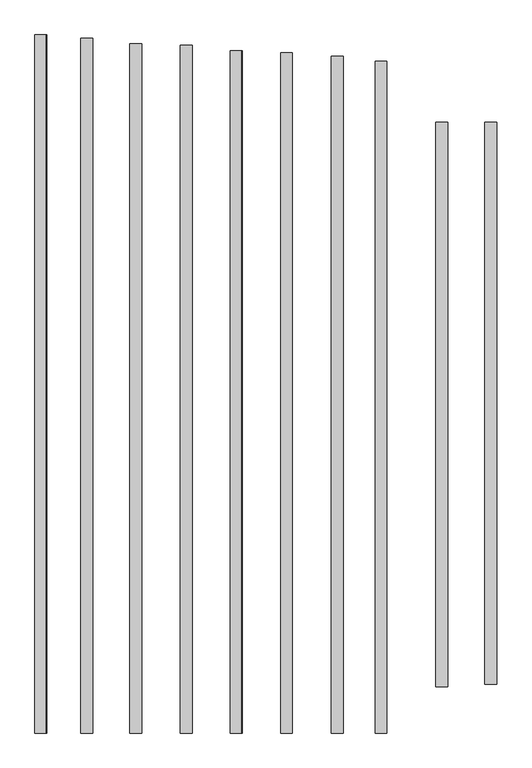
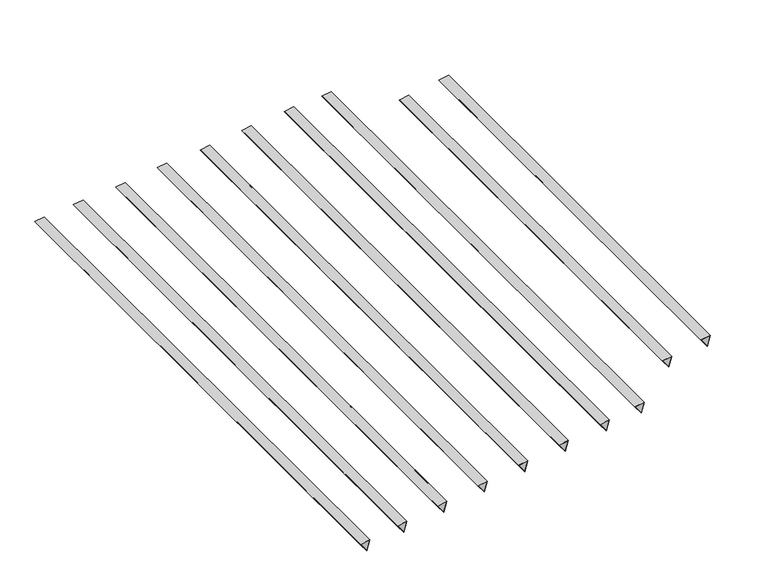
"""IFC4 building model written with IfcOpenShell, lengths in millimetres: beam geometry, Armazón estructural 10 : Armazón estructural 10."""

from ifc_helpers import new_model, si_unit, frame, origin, place, context, project, spatial, polyline, outline, extrude, source, transform, mapped, element, save


def beam_2914460d(model_context):
    return source(origin(), model_context, "Body", "SweptSolid", [
        extrude(outline(polyline([(4071.1441248, -3997.1644583), (4026.8558752, -4243.2102893), (3802.954169, -4075.8991242), (4071.1441248, -3997.1644583)]), holes=[polyline([(3824.9611772, -4079.8603857), (4019.8804377, -4225.5143386), (4058.4358958, -4011.317349), (3824.9611772, -4079.8603857)])]), frame((0.0, -4086.3927727, 0.0), z_axis=(0.0, 1.0, 0.0), x_axis=(0.0, 0.0, 1.0)), (0.0, 0.0, 1.0), 14508.5655695),
        extrude(outline(polyline([(4243.1673074, -3045.3689992), (4198.8790579, -3291.4148302), (3974.9773516, -3124.1036651), (4243.1673074, -3045.3689992)]), holes=[polyline([(3996.9843598, -3128.0649266), (4191.9036203, -3273.7188795), (4230.4590785, -3059.5218899), (3996.9843598, -3128.0649266)])]), frame((0.0, -4086.3927727, 0.0), z_axis=(0.0, 1.0, 0.0), x_axis=(0.0, 0.0, 1.0)), (0.0, 0.0, 1.0), 14436.4503591),
        extrude(outline(polyline([(4427.4064257, -2021.8183423), (4383.1181761, -2267.8641733), (4159.2164699, -2100.5530082), (4427.4064257, -2021.8183423)]), holes=[polyline([(4181.223478, -2104.5142697), (4376.1427386, -2250.1682226), (4414.6981967, -2035.971233), (4181.223478, -2104.5142697)])]), frame((0.0, -4086.3927727, 0.0), z_axis=(0.0, 1.0, 0.0), x_axis=(0.0, 0.0, 1.0)), (0.0, 0.0, 1.0), 14328.2775435),
        extrude(outline(polyline([(4615.1886039, -978.5840189), (4570.9003543, -1224.6298498), (4346.9986481, -1057.3186848), (4615.1886039, -978.5840189)]), holes=[polyline([(4369.0056563, -1061.2799462), (4563.9249168, -1206.9338992), (4602.4803749, -992.7369096), (4369.0056563, -1061.2799462)])]), frame((0.0, -4086.3927727, 0.0), z_axis=(0.0, 1.0, 0.0), x_axis=(0.0, 0.0, 1.0)), (0.0, 0.0, 1.0), 14292.2199383),
        extrude(outline(polyline([(4802.9707821, 64.6503046), (4758.6825325, -181.3955264), (4534.7808263, -14.0843614), (4802.9707821, 64.6503046)]), holes=[polyline([(4556.7878345, -18.0456228), (4751.707095, -163.6995758), (4790.2625531, 50.4974138), (4556.7878345, -18.0456228)])]), frame((0.0, -4086.3927727, 0.0), z_axis=(0.0, 1.0, 0.0), x_axis=(0.0, 0.0, 1.0)), (0.0, 0.0, 1.0), 14176.8356017),
        extrude(outline(polyline([(4990.7529603, 1107.884628), (4946.4647107, 861.838797), (4722.5630045, 1029.1499621), (4990.7529603, 1107.884628)]), holes=[polyline([(4744.5700127, 1025.1887006), (4939.4892732, 879.5347477), (4978.0447314, 1093.7317373), (4744.5700127, 1025.1887006)])]), frame((0.0, -4086.3927727, 0.0), z_axis=(0.0, 1.0, 0.0), x_axis=(0.0, 0.0, 1.0)), (0.0, 0.0, 1.0), 14133.5664754),
        extrude(outline(polyline([(5181.2242855, 2166.0586565), (5136.9360359, 1920.0128255), (4913.0343297, 2087.3239906), (5181.2242855, 2166.0586565)]), holes=[polyline([(4935.0413378, 2083.3627291), (5129.9605984, 1937.7087762), (5168.5160565, 2151.9057658), (4935.0413378, 2083.3627291)])]), frame((0.0, -4086.3927727, 0.0), z_axis=(0.0, 1.0, 0.0), x_axis=(0.0, 0.0, 1.0)), (0.0, 0.0, 1.0), 14068.6627861),
        extrude(outline(polyline([(5344.2050439, 3071.5073146), (5299.9167943, 2825.4614836), (5076.0150881, 2992.7726487), (5344.2050439, 3071.5073146)]), holes=[polyline([(5098.0220963, 2988.8113872), (5292.9413568, 2843.1574343), (5331.4968149, 3057.3544239), (5098.0220963, 2988.8113872)])]), frame((0.0, -4086.3927727, 0.0), z_axis=(0.0, 1.0, 0.0), x_axis=(0.0, 0.0, 1.0)), (0.0, 0.0, 1.0), 13959.6677218),
        extrude(outline(polyline([(5570.9608818, 4331.2619693), (5526.6726322, 4085.2161383), (5302.770926, 4252.5273033), (5570.9608818, 4331.2619693)]), holes=[polyline([(5324.7779341, 4248.5660419), (5519.6971947, 4102.9120889), (5558.2526528, 4317.1090785), (5324.7779341, 4248.5660419)])]), frame((0.0, -3119.8833494, 0.0), z_axis=(0.0, 1.0, 0.0), x_axis=(0.0, 0.0, 1.0)), (0.0, 0.0, 1.0), 11723.4905768),
        extrude(outline(polyline([(5755.2, 5354.8126262), (5710.9117504, 5108.7667952), (5487.0100442, 5276.0779603), (5755.2, 5354.8126262)]), holes=[polyline([(5509.0170524, 5272.1166988), (5703.9363129, 5126.4627459), (5742.491771, 5340.6597355), (5509.0170524, 5272.1166988)])]), frame((0.0, -3076.3927727, 0.0), z_axis=(0.0, 1.0, 0.0), x_axis=(0.0, 0.0, 1.0)), (0.0, 0.0, 1.0), 11680.0),
    ])


if __name__ == "__main__":
    model = new_model("IFC4")
    model_context = context("Model", 3, world=origin())
    ifc_project = project(units=[si_unit("LENGTHUNIT", "METRE", prefix="MILLI")], contexts=[model_context])
    site = spatial("IfcSite", under=ifc_project)
    building = spatial("IfcBuilding", under=site)
    placement = place(None, origin())
    beam_shape = beam_2914460d(model_context)
    element("IfcBeam", 1, ObjectType="Armazón estructural 10 : Armazón estructural 10", at=placement, inside=building, context=model_context, shape_type="MappedRepresentation", body=[
        mapped(beam_shape, transform((0.0, 0.0, 0.0), x_axis=(1.0, 0.0, 0.0), y_axis=(0.0, 1.0, 0.0), z_axis=(0.0, 0.0, 1.0))),
    ])
    save(model, "model.ifc")
